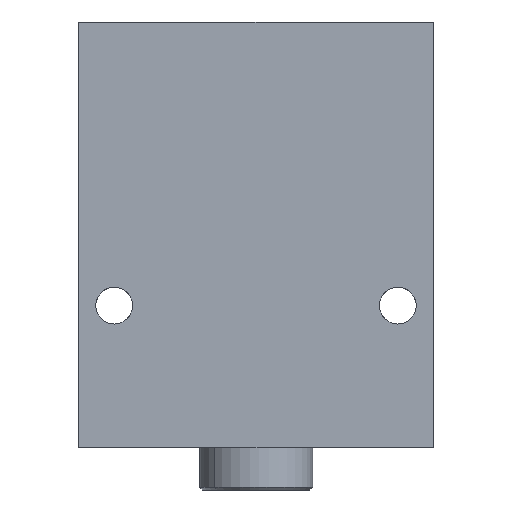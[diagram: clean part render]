
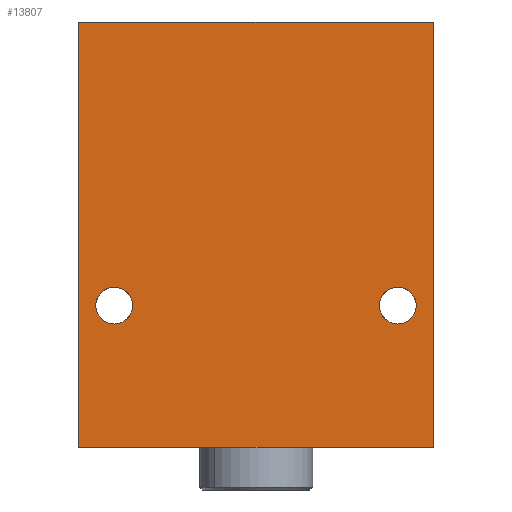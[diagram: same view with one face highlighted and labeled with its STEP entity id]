
A CAD part, front view. The second image highlights one B-rep face of the part: STEP entity #13807.
In plain terms, the highlighted planar face has unit normal (0, -1, 0).
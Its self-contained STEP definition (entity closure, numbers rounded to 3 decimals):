
#142 = CIRCLE ( 'NONE', #12012, 6.5 ) ;
#1182 = DIRECTION ( 'NONE',  ( 0., 0., 1. ) ) ;
#1204 = CARTESIAN_POINT ( 'NONE',  ( 50., 0., -43.5 ) ) ;
#1287 = CARTESIAN_POINT ( 'NONE',  ( -50., 0., -50. ) ) ;
#1305 = ORIENTED_EDGE ( 'NONE', *, *, #10944, .F. ) ;
#1307 = PLANE ( 'NONE',  #15704 ) ;
#1477 = LINE ( 'NONE', #8260, #14381 ) ;
#1527 = VERTEX_POINT ( 'NONE', #4207 ) ;
#1669 = DIRECTION ( 'NONE',  ( 0., 0., 1. ) ) ;
#1840 = VECTOR ( 'NONE', #10872, 1000. ) ;
#1937 = VERTEX_POINT ( 'NONE', #12680 ) ;
#2419 = DIRECTION ( 'NONE',  ( 0., 1., 0. ) ) ;
#2523 = ORIENTED_EDGE ( 'NONE', *, *, #15407, .T. ) ;
#2602 = LINE ( 'NONE', #14061, #9818 ) ;
#2660 = DIRECTION ( 'NONE',  ( 0., 0., 1. ) ) ;
#2680 = DIRECTION ( 'NONE',  ( 0., 1., 0. ) ) ;
#3174 = CARTESIAN_POINT ( 'NONE',  ( 50., 0., -50. ) ) ;
#3335 = ORIENTED_EDGE ( 'NONE', *, *, #7000, .F. ) ;
#3542 = EDGE_LOOP ( 'NONE', ( #10033, #13692 ) ) ;
#3972 = EDGE_CURVE ( 'NONE', #12971, #1527, #2602, .T. ) ;
#4207 = CARTESIAN_POINT ( 'NONE',  ( -62.5, 0., -100. ) ) ;
#4453 = CARTESIAN_POINT ( 'NONE',  ( -62.5, 0., -100. ) ) ;
#4484 = DIRECTION ( 'NONE',  ( 0., 0., 1. ) ) ;
#5081 = DIRECTION ( 'NONE',  ( -1., 0., 0. ) ) ;
#6019 = FACE_OUTER_BOUND ( 'NONE', #7960, .T. ) ;
#6530 = CARTESIAN_POINT ( 'NONE',  ( 62.5, 0., 50. ) ) ;
#6672 = CARTESIAN_POINT ( 'NONE',  ( -62.5, 0., 50. ) ) ;
#6691 = AXIS2_PLACEMENT_3D ( 'NONE', #3174, #12094, #4484 ) ;
#7000 = EDGE_CURVE ( 'NONE', #10141, #12971, #1477, .T. ) ;
#7303 = EDGE_CURVE ( 'NONE', #9882, #14551, #8213, .T. ) ;
#7960 = EDGE_LOOP ( 'NONE', ( #10172, #8097, #3335, #1305 ) ) ;
#8097 = ORIENTED_EDGE ( 'NONE', *, *, #3972, .F. ) ;
#8140 = CIRCLE ( 'NONE', #10017, 6.5 ) ;
#8213 = CIRCLE ( 'NONE', #6691, 6.5 ) ;
#8260 = CARTESIAN_POINT ( 'NONE',  ( 62.5, 0., -100. ) ) ;
#8541 = EDGE_CURVE ( 'NONE', #9643, #1937, #142, .T. ) ;
#8989 = DIRECTION ( 'NONE',  ( 0., 1., 0. ) ) ;
#9125 = VECTOR ( 'NONE', #1669, 1000. ) ;
#9643 = VERTEX_POINT ( 'NONE', #11000 ) ;
#9818 = VECTOR ( 'NONE', #5081, 1000. ) ;
#9882 = VERTEX_POINT ( 'NONE', #11468 ) ;
#9913 = ORIENTED_EDGE ( 'NONE', *, *, #8541, .T. ) ;
#10017 = AXIS2_PLACEMENT_3D ( 'NONE', #16692, #8989, #1182 ) ;
#10033 = ORIENTED_EDGE ( 'NONE', *, *, #13033, .T. ) ;
#10104 = CARTESIAN_POINT ( 'NONE',  ( -50., 0., -50. ) ) ;
#10141 = VERTEX_POINT ( 'NONE', #6530 ) ;
#10172 = ORIENTED_EDGE ( 'NONE', *, *, #12393, .F. ) ;
#10328 = DIRECTION ( 'NONE',  ( 0., 1., 0. ) ) ;
#10796 = EDGE_LOOP ( 'NONE', ( #9913, #2523 ) ) ;
#10823 = VERTEX_POINT ( 'NONE', #6672 ) ;
#10872 = DIRECTION ( 'NONE',  ( 1., 0., 0. ) ) ;
#10944 = EDGE_CURVE ( 'NONE', #10823, #10141, #12078, .T. ) ;
#11000 = CARTESIAN_POINT ( 'NONE',  ( -50., 0., -43.5 ) ) ;
#11240 = CARTESIAN_POINT ( 'NONE',  ( 62.5, 0., -100. ) ) ;
#11293 = AXIS2_PLACEMENT_3D ( 'NONE', #1287, #10328, #2660 ) ;
#11362 = DIRECTION ( 'NONE',  ( 0., 0., 1. ) ) ;
#11468 = CARTESIAN_POINT ( 'NONE',  ( 50., 0., -56.5 ) ) ;
#11604 = DIRECTION ( 'NONE',  ( 0., 0., 1. ) ) ;
#11753 = CIRCLE ( 'NONE', #11293, 6.5 ) ;
#12012 = AXIS2_PLACEMENT_3D ( 'NONE', #10104, #2419, #11362 ) ;
#12078 = LINE ( 'NONE', #14697, #1840 ) ;
#12084 = LINE ( 'NONE', #4453, #9125 ) ;
#12094 = DIRECTION ( 'NONE',  ( 0., 1., 0. ) ) ;
#12393 = EDGE_CURVE ( 'NONE', #1527, #10823, #12084, .T. ) ;
#12401 = FACE_BOUND ( 'NONE', #10796, .T. ) ;
#12680 = CARTESIAN_POINT ( 'NONE',  ( -50., 0., -56.5 ) ) ;
#12878 = CARTESIAN_POINT ( 'NONE',  ( 0., 0., 0. ) ) ;
#12971 = VERTEX_POINT ( 'NONE', #11240 ) ;
#13033 = EDGE_CURVE ( 'NONE', #14551, #9882, #8140, .T. ) ;
#13692 = ORIENTED_EDGE ( 'NONE', *, *, #7303, .T. ) ;
#13807 = ADVANCED_FACE ( 'NONE', ( #12401, #15829, #6019 ), #1307, .F. ) ;
#14061 = CARTESIAN_POINT ( 'NONE',  ( -62.5, 0., -100. ) ) ;
#14381 = VECTOR ( 'NONE', #15878, 1000. ) ;
#14551 = VERTEX_POINT ( 'NONE', #1204 ) ;
#14697 = CARTESIAN_POINT ( 'NONE',  ( -62.5, 0., 50. ) ) ;
#15407 = EDGE_CURVE ( 'NONE', #1937, #9643, #11753, .T. ) ;
#15704 = AXIS2_PLACEMENT_3D ( 'NONE', #12878, #2680, #11604 ) ;
#15829 = FACE_BOUND ( 'NONE', #3542, .T. ) ;
#15878 = DIRECTION ( 'NONE',  ( 0., 0., -1. ) ) ;
#16692 = CARTESIAN_POINT ( 'NONE',  ( 50., 0., -50. ) ) ;
